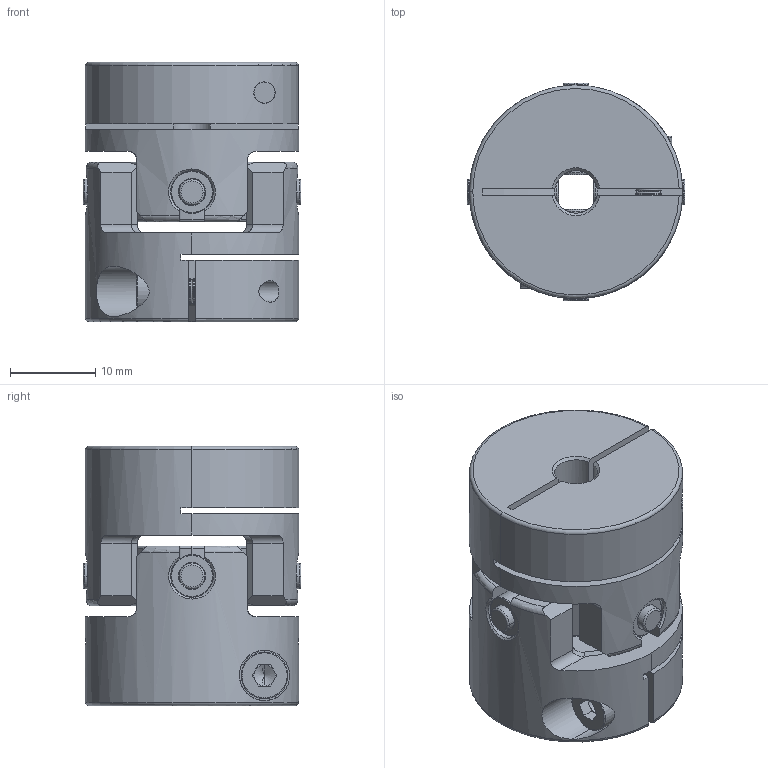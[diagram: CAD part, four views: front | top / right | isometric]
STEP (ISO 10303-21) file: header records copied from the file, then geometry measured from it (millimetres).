
FILE_DESCRIPTION (( 'STEP AP203' ), '1' );
FILE_NAME ('SCJA-25C-5X10_203.STEP', '2013-03-06T01:00:35', ( '' ), ( '' ), 'SwSTEP 2.0', 'SolidWorks 2012', '' );
FILE_SCHEMA (( 'CONFIG_CONTROL_DESIGN' ));
Length unit declared in the file: millimetre
Products named in the file (1): SCJA-25C-5X10_203
Bounding box: 25.5 x 25.5 x 30.4 mm (x, y, z)
Volume: 11223.3 mm3; surface area: 7592.5 mm2
Topology: 1 solids, 21 shells, 567 faces, 1302 edges, 749 vertices
Faces by surface type: cone 187, cylinder 176, plane 116, torus 76, bspline 12
Entity records: 21380 total; most frequent: CARTESIAN_POINT 8454, DIRECTION 2863, ORIENTED_EDGE 2596, EDGE_CURVE 1298, AXIS2_PLACEMENT_3D 1174, VERTEX_POINT 749, CIRCLE 618, EDGE_LOOP 597
